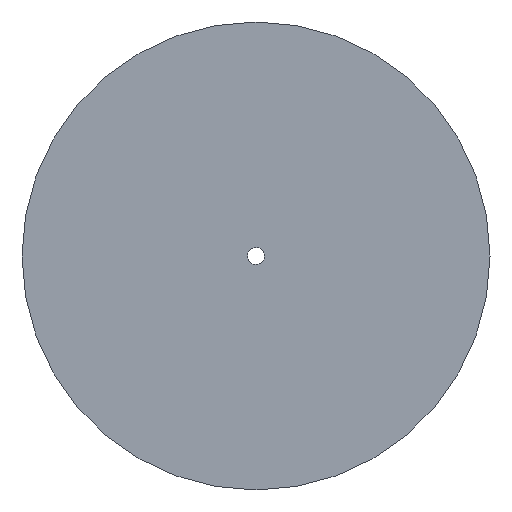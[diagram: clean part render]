
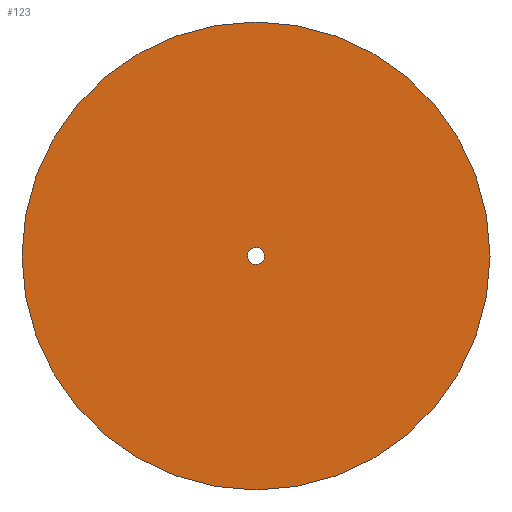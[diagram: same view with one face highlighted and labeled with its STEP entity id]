
A CAD part, top view. The second image highlights one B-rep face of the part: STEP entity #123.
In plain terms, the highlighted planar face has unit normal (0, 0, 1).
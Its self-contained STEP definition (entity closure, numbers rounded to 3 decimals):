
#62=CARTESIAN_POINT('Vertex',(-2.852,1.558,0.)) ;
#76=CARTESIAN_POINT('Vertex',(2.852,-1.558,0.)) ;
#79=CARTESIAN_POINT('Axis2P3D Location',(0.,0.,0.)) ;
#91=CARTESIAN_POINT('Axis2P3D Location',(0.,0.,0.)) ;
#96=CARTESIAN_POINT('Axis2P3D Location',(0.,0.,0.)) ;
#100=CARTESIAN_POINT('Vertex',(89.,0.,0.)) ;
#102=CARTESIAN_POINT('Vertex',(-89.,0.,0.)) ;
#105=CARTESIAN_POINT('Axis2P3D Location',(0.,0.,0.)) ;
#114=CARTESIAN_POINT('Axis2P3D Location',(0.,0.,0.)) ;
#80=DIRECTION('Axis2P3D Direction',(0.,-0.,-1.)) ;
#92=DIRECTION('Axis2P3D Direction',(0.,0.,1.)) ;
#93=DIRECTION('Axis2P3D XDirection',(1.,0.,0.)) ;
#97=DIRECTION('Axis2P3D Direction',(0.,0.,1.)) ;
#106=DIRECTION('Axis2P3D Direction',(0.,0.,1.)) ;
#115=DIRECTION('Axis2P3D Direction',(0.,0.,1.)) ;
#81=AXIS2_PLACEMENT_3D('Circle Axis2P3D',#79,#80,$) ;
#94=AXIS2_PLACEMENT_3D('Plane Axis2P3D',#91,#92,#93) ;
#98=AXIS2_PLACEMENT_3D('Circle Axis2P3D',#96,#97,$) ;
#107=AXIS2_PLACEMENT_3D('Circle Axis2P3D',#105,#106,$) ;
#116=AXIS2_PLACEMENT_3D('Circle Axis2P3D',#114,#115,$) ;
#111=ORIENTED_EDGE('',*,*,#104,.F.) ;
#112=ORIENTED_EDGE('',*,*,#109,.F.) ;
#120=ORIENTED_EDGE('',*,*,#118,.F.) ;
#121=ORIENTED_EDGE('',*,*,#83,.F.) ;
#122=FACE_BOUND('',#119,.T.) ;
#123=ADVANCED_FACE('PartBody',(#113,#122),#95,.T.) ;
#82=CIRCLE('generated circle',#81,3.25) ;
#99=CIRCLE('generated circle',#98,89.) ;
#108=CIRCLE('generated circle',#107,89.) ;
#117=CIRCLE('generated circle',#116,3.25) ;
#83=EDGE_CURVE('',#77,#63,#82,.F.) ;
#104=EDGE_CURVE('',#101,#103,#99,.F.) ;
#109=EDGE_CURVE('',#103,#101,#108,.F.) ;
#118=EDGE_CURVE('',#63,#77,#117,.T.) ;
#110=EDGE_LOOP('',(#111,#112)) ;
#119=EDGE_LOOP('',(#120,#121)) ;
#113=FACE_OUTER_BOUND('',#110,.T.) ;
#95=PLANE('',#94) ;
#63=VERTEX_POINT('',#62) ;
#77=VERTEX_POINT('',#76) ;
#101=VERTEX_POINT('',#100) ;
#103=VERTEX_POINT('',#102) ;
